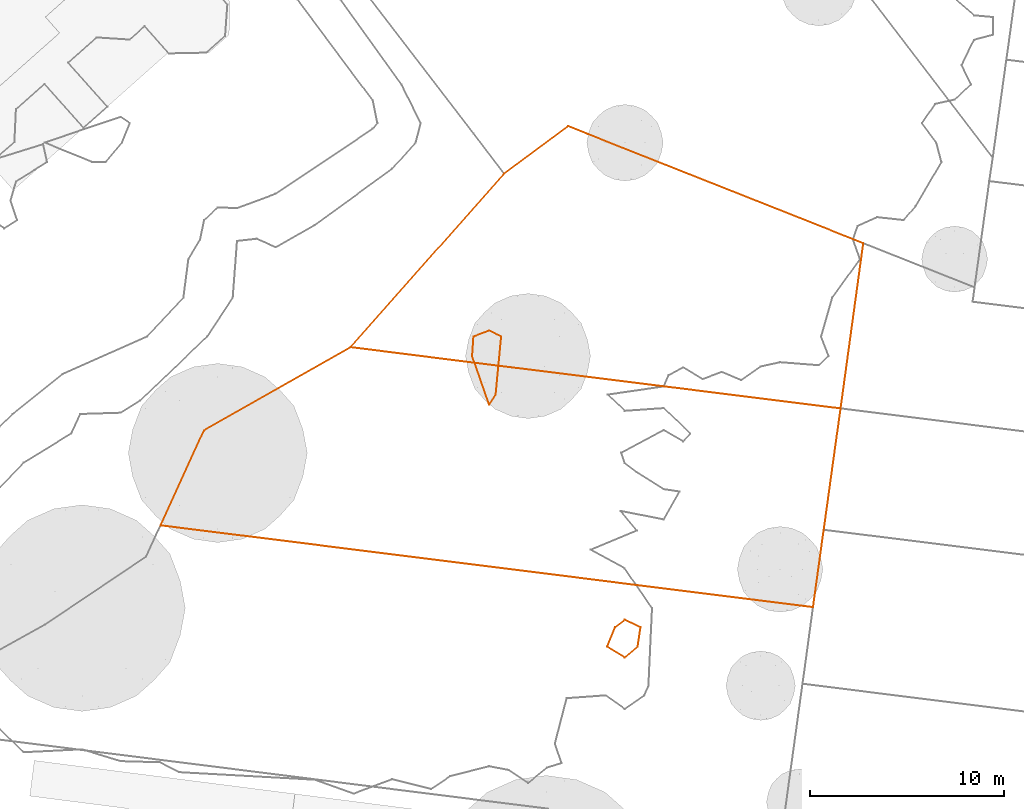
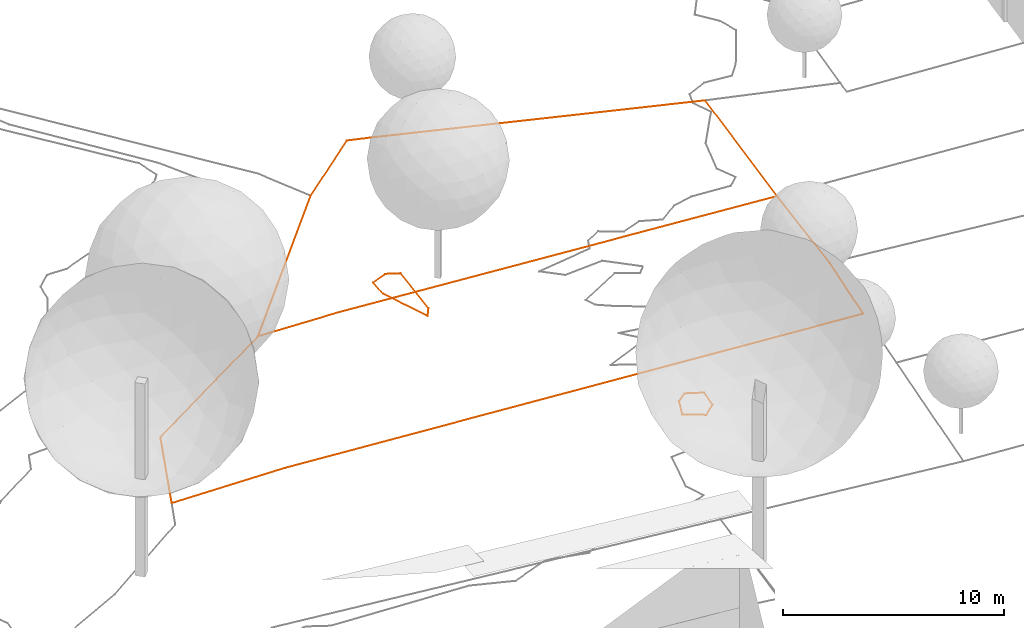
# Not in any storey, part 126 of 477: 4 geographic elements.
"""IFC4 model written with IfcOpenShell, lengths in metres."""

import ifcopenshell
import ifcopenshell.guid

model = None  # the IFC model being written
_history = None  # IfcOwnerHistory: only IFC2X3 demands one
_inside = {}  # id of a spatial element -> (the spatial element, [elements in it])
_under = {}  # id of a project, library or spatial element -> (it, [spatial elements below it])
_declared = {}  # id of a project -> (the project, [libraries it declares])
_typed = {}  # id of a type object -> (the type object, [elements of that type])
_made_of = {}  # id of a material, layer set ... -> (it, [elements and type objects made of it])


def new_model(schema):
    """Start an empty IFC model of exactly this schema.

    Asked for "IFC4X3", IfcOpenShell would pick the latest addendum, in which some entities
    have other attributes; the version numbers below select the first issue.
    IFC2X3 requires an IfcOwnerHistory on every rooted entity: one is made here for all.
    """
    global model, _history
    if schema == "IFC4X3":
        model = ifcopenshell.file(schema_version=(4, 3, 0, 0))
    else:
        model = ifcopenshell.file(schema=schema)
    _inside.clear()
    _under.clear()
    _declared.clear()
    _typed.clear()
    _made_of.clear()
    _history = None
    if model.schema == "IFC2X3":
        org = make("IfcOrganization", Name="unknown")
        user = make(
            "IfcPersonAndOrganization",
            ThePerson=make("IfcPerson", FamilyName="unknown"),
            TheOrganization=org,
        )
        app = make(
            "IfcApplication",
            ApplicationDeveloper=org,
            Version="unknown",
            ApplicationFullName="unknown",
            ApplicationIdentifier="unknown",
        )
        _history = make(
            "IfcOwnerHistory",
            OwningUser=user,
            OwningApplication=app,
            ChangeAction="ADDED",
            CreationDate=0,
        )
    return model


def make(cls, **values):
    """One entity of the class cls with the attributes given. An attribute that is None is left unset."""
    return model.create_entity(
        cls, **{name: value for name, value in values.items() if value is not None}
    )


def entity(cls, *values):
    """Any entity or typed value of the class cls, its attributes in the order of the schema. None: left unset."""
    e = model.create_entity(cls)
    for i, value in enumerate(values):
        if value is not None:
            e[i] = value
    return e


def rooted(cls, **values):
    """An entity with a GlobalId (a new one), such as an element, a storey or a relation."""
    return make(cls, GlobalId=ifcopenshell.guid.new(), OwnerHistory=_history, **values)


def si_unit(unit_type, name, prefix=None):
    """IfcSIUnit, for example si_unit("LENGTHUNIT", "METRE", prefix="MILLI")."""
    return make("IfcSIUnit", UnitType=unit_type, Prefix=prefix, Name=name)


def assignment(units):
    """IfcUnitAssignment: the units of a project."""
    return None if units is None else make("IfcUnitAssignment", Units=units)


def point(xyz):
    """IfcCartesianPoint."""
    return None if xyz is None else make("IfcCartesianPoint", Coordinates=xyz)


def direction(xyz):
    """IfcDirection."""
    return None if xyz is None else make("IfcDirection", DirectionRatios=xyz)


def frame(location, z_axis=None, x_axis=None):
    """IfcAxis2Placement3D, a coordinate frame: its origin and axes. An axis left out is left unset."""
    return make(
        "IfcAxis2Placement3D",
        Location=point(location),
        Axis=direction(z_axis),
        RefDirection=direction(x_axis),
    )


def origin_with_axes():
    """The frame at (0, 0, 0) with the z axis (0, 0, 1) and the x axis (1, 0, 0) written out."""
    return frame((0.0, 0.0, 0.0), z_axis=(0.0, 0.0, 1.0), x_axis=(1.0, 0.0, 0.0))


def place(relative_to, where):
    """IfcLocalPlacement: puts the frame where relative to a parent placement (None: the world)."""
    return make(
        "IfcLocalPlacement", PlacementRelTo=relative_to, RelativePlacement=where
    )


def context(
    kind, dimensions, precision=None, world=None, true_north=None, identifier=None
):
    """IfcGeometricRepresentationContext, for example the 3D "Model" context."""
    return make(
        "IfcGeometricRepresentationContext",
        ContextIdentifier=identifier,
        ContextType=kind,
        CoordinateSpaceDimension=dimensions,
        Precision=precision,
        WorldCoordinateSystem=world,
        TrueNorth=true_north,
    )


def subcontext(parent, identifier, kind, view, scale=None):
    """IfcGeometricRepresentationSubContext, for example "Body" below "Model"."""
    return make(
        "IfcGeometricRepresentationSubContext",
        ContextIdentifier=identifier,
        ContextType=kind,
        ParentContext=parent,
        TargetScale=scale,
        TargetView=view,
    )


def project(units=None, contexts=None):
    """IfcProject with its units and contexts."""
    return rooted(
        "IfcProject",
        Name="project",
        RepresentationContexts=contexts,
        UnitsInContext=assignment(units),
    )


def spatial(cls, under=None, at=None, **own):
    """A site, building, storey or space (cls), placed at a placement, below another one or the project."""
    s = rooted(cls, ObjectPlacement=at, **own)
    if under is not None:
        _under.setdefault(under.id(), (under, []))[1].append(s)
    return s


def shape(context_of_items, identifier, shape_type, items):
    """IfcShapeRepresentation: the items that make up one representation, for example the "Body"."""
    return make(
        "IfcShapeRepresentation",
        ContextOfItems=context_of_items,
        RepresentationIdentifier=identifier,
        RepresentationType=shape_type,
        Items=items,
    )


def made_of(thing, what):
    """Note that an element or type object is made of a material, layer set ...; save() writes the relation."""
    if what is not None:
        _made_of.setdefault(what.id(), (what, []))[1].append(thing)
    return thing


def element(
    cls,
    number,
    at=None,
    inside=None,
    cuts=None,
    type_object=None,
    material=None,
    context=None,
    identifier="Body",
    shape_type=None,
    held_by="IfcProductDefinitionShape",
    body=None,
    shapes=None,
    **own,
):
    """One element of the class cls, such as IfcWall. Its Tag is "e" and its number.

    at: its placement. inside: the storey or other place that contains it. cuts: it is an
    opening in that element (IfcRelVoidsElement). A single representation is given by context,
    identifier, shape_type and body (its items); several are given by shapes. held_by: the class
    of the entity that holds the representations. save() writes the other relations.
    """
    e = rooted(cls, Tag="e%d" % number, ObjectPlacement=at, **own)
    if body is not None:
        shapes = [shape(context, identifier, shape_type, body)]
    if shapes is not None:
        e.Representation = make(held_by, Representations=shapes)
    if inside is not None:
        _inside.setdefault(inside.id(), (inside, []))[1].append(e)
    if cuts is not None:
        rooted(
            "IfcRelVoidsElement", RelatingBuildingElement=cuts, RelatedOpeningElement=e
        )
    if type_object is not None:
        _typed.setdefault(type_object.id(), (type_object, []))[1].append(e)
    return made_of(e, material)


def aggregate(whole, parts):
    """IfcRelAggregates: a whole, such as a stair, and the parts it consists of."""
    return rooted("IfcRelAggregates", RelatingObject=whole, RelatedObjects=parts)


def save(model, path):
    """Write the relations noted so far, then the file.

    IfcRelAggregates (storeys below a building ...), IfcRelContainedInSpatialStructure (elements
    in a storey), IfcRelDefinesByType, IfcRelAssociatesMaterial and IfcRelDeclares: one each for
    every whole, place, type object, material and project.
    """
    for whole, parts in _under.values():
        aggregate(whole, parts)
    for where, things in _inside.values():
        rooted(
            "IfcRelContainedInSpatialStructure",
            RelatedElements=things,
            RelatingStructure=where,
        )
    for kind, things in _typed.values():
        rooted("IfcRelDefinesByType", RelatedObjects=things, RelatingType=kind)
    for what, things in _made_of.values():
        rooted("IfcRelAssociatesMaterial", RelatedObjects=things, RelatingMaterial=what)
    for by, libraries in _declared.values():
        rooted("IfcRelDeclares", RelatingContext=by, RelatedDefinitions=libraries)
    model.write(path)


model = new_model("IFC4")

# Units and contexts
model_context = context("Model", 3, precision=1e-05, world=origin_with_axes())
body_context = subcontext(model_context, "Body", "Model", "MODEL_VIEW")
ifc_project = project(units=[si_unit("AREAUNIT", "SQUARE_METRE"), si_unit("LENGTHUNIT", "METRE")], contexts=[model_context])

# Sites
site_1_placement = place(None, origin_with_axes())
site_1 = spatial("IfcSite", under=ifc_project, at=site_1_placement, Name="Topoexport Site")
site_2_placement = place(site_1_placement, origin_with_axes())
site_2 = spatial("IfcSite", under=site_1, at=site_2_placement, Name="TPX_CADASTRES")

# Geographic elements
geographic_element_1_placement = place(site_2_placement, frame((386.7267320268, 63.4287160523, 501.3806795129), z_axis=(0.0, 0.0, 1.0), x_axis=(1.0, 0.0, 0.0)))
element("IfcGeographicElement", 1, at=geographic_element_1_placement, inside=site_2, Name="Cadastre 202", PredefinedType="NOTDEFINED", context=body_context, shape_type="GeometricCurveSet", body=[
    entity("IfcGeometricCurveSet", [entity("IfcIndexedPolyCurve", entity("IfcCartesianPointList3D", [[0.0, 0.0, 0.0], [2.2399999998, 4.9000000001, -0.1186009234], [9.7999999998, 9.1900000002, 0.19594584], [13.6889999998, 8.7000000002, 0.4488082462], [35.077, 6.03, 1.0045238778], [34.2069999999, -0.23, 1.4264808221], [33.656, -4.22, 1.2268426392], [5.5189999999, -0.6899999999, 0.4320374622], [0.0, 0.0, 0.0]]))]),
])
geographic_element_2_placement = place(site_2_placement, frame((396.5267320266, 72.6187160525, 501.5766253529), z_axis=(0.0, 0.0, 1.0), x_axis=(1.0, 0.0, 0.0)))
element("IfcGeographicElement", 2, at=geographic_element_2_placement, inside=site_2, Name="Cadastre 203", PredefinedType="NOTDEFINED", context=body_context, shape_type="GeometricCurveSet", body=[
    entity("IfcGeometricCurveSet", [entity("IfcIndexedPolyCurve", entity("IfcCartesianPointList3D", [[0.0, 0.0, 0.0], [7.9300000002, 8.96, -0.4497539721], [11.2200000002, 11.3999999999, -0.0345355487], [12.219, 11.0, 0.0182747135], [26.4480000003, 5.3599999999, 0.5112420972], [25.2770000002, -3.1600000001, 0.8085780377], [3.889, -0.49, 0.2528624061], [0.0, 0.0, 0.0]]))]),
])

# Site
site_3_placement = place(site_1_placement, origin_with_axes())
site_3 = spatial("IfcSite", under=site_1, at=site_3_placement, Name="TPX_CONTOUR_LINES")

# Geographic elements
geographic_element_3_placement = place(site_3_placement, frame((402.8018271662, 72.1707160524, 502.0), z_axis=(0.0, 0.0, 1.0), x_axis=(1.0, 0.0, 0.0)))
element("IfcGeographicElement", 3, at=geographic_element_3_placement, inside=site_3, Name="Contour Line 502.0 m", PredefinedType="NOTDEFINED", context=body_context, shape_type="GeometricCurveSet", body=[
    entity("IfcGeometricCurveSet", [entity("IfcIndexedPolyCurve", entity("IfcCartesianPointList3D", [[1.2135926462, -2.0, 0.0], [0.8759048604, -2.5108695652, 0.0], [0.0, 0.0, 0.0], [0.0674962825, 1.0, 0.0], [0.8759048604, 1.3065810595, 0.0], [1.4968411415, 1.0, 0.0], [1.2135926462, -2.0, 0.0]]))]),
])
geographic_element_4_placement = place(site_3_placement, frame((409.7619105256, 57.1707160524, 502.0), z_axis=(0.0, 0.0, 1.0), x_axis=(1.0, 0.0, 0.0)))
element("IfcGeographicElement", 4, at=geographic_element_4_placement, inside=site_3, Name="Contour Line 502.0 m", PredefinedType="NOTDEFINED", context=body_context, shape_type="GeometricCurveSet", body=[
    entity("IfcGeometricCurveSet", [entity("IfcIndexedPolyCurve", entity("IfcCartesianPointList3D", [[1.5735054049, 0.0, 0.0], [0.9158215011, -0.5626168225, 0.0], [0.0, 0.0, 0.0], [0.4100299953, 1.0, 0.0], [0.9158215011, 1.3910447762, 0.0], [1.7244634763, 1.0, 0.0], [1.5735054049, 0.0, 0.0]]))]),
])

save(model, "model.ifc")
